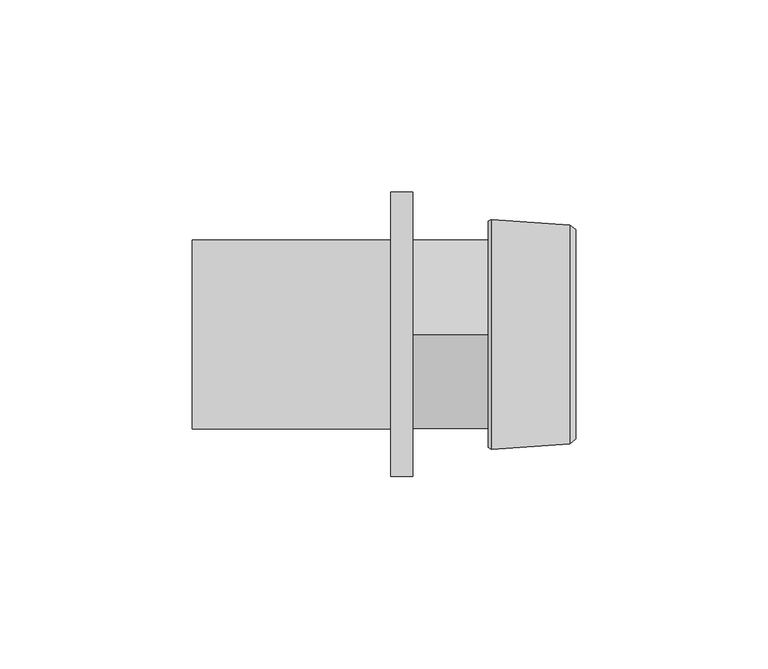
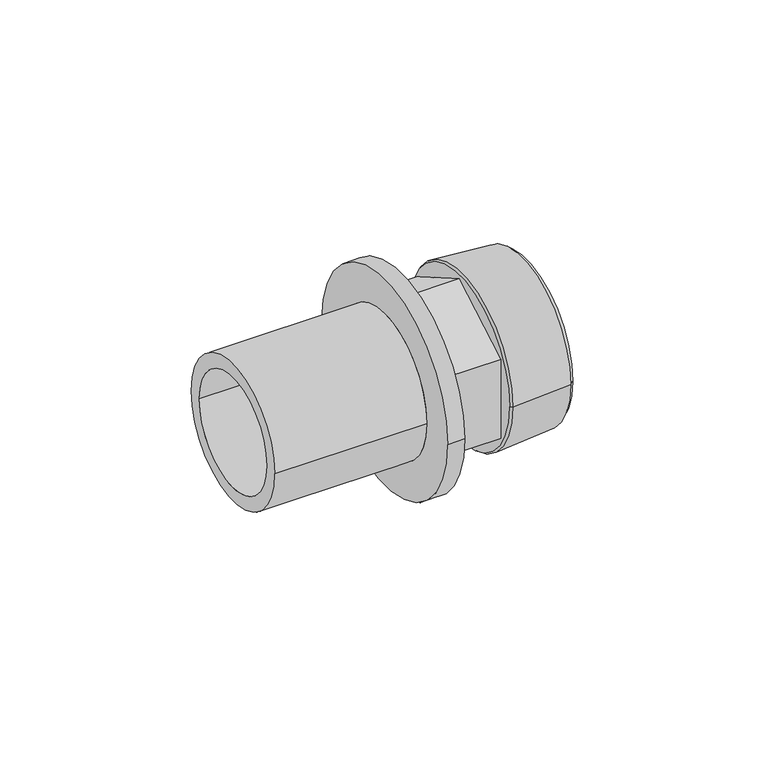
"""IFC4 building model written with IfcOpenShell, lengths in millimetres: pipe fitting geometry, RAUTITAN_Adapter_external_thread LX+G_LX : RTI A external LX+G_LX DE."""

from ifc_helpers import new_model, si_unit, frame, origin, place, context, project, spatial, polyline, circle_curve, outline, extrude, source, transform, mapped, element, save
from ifc_brep_helpers import plane_surface, cylinder_surface, revolved_surface, advanced_brep


def pipe_fitting_cd328eca(model_context):
    return source(origin(), model_context, "Body", "SolidModel", [
        advanced_brep(
        [(-5.77, 24.6, 0.0), (-5.77, -24.6, 0.0), (-57.32, -24.6, 0.0), (-57.32, 24.6, 0.0), (0.0, 37.0, 0.0), (0.0, -37.0, 0.0), (-5.77, -37.0, 0.0), (-5.77, 37.0, 0.0), (-57.32, 19.75, 0.0), (-57.32, -19.75, 0.0), (0.0, -19.75, 0.0), (0.0, 19.75, 0.0)],
        [
            (0, 1, circle_curve(frame((-5.77, 0.0, 0.0), z_axis=(-1.0, 0.0, 0.0), x_axis=(0.0, -1.0, 0.0)), 24.6)),
            (1, 2),
            (2, 3, circle_curve(frame((-57.32, 0.0, 0.0), z_axis=(1.0, 0.0, 0.0), x_axis=(0.0, -1.0, 0.0)), 24.6)),
            (3, 0),
            (4, 5, circle_curve(frame((0.0, 0.0, 0.0), z_axis=(-1.0, 0.0, 0.0), x_axis=(0.0, -1.0, 0.0)), 37.0)),
            (5, 6),
            (6, 7, circle_curve(frame((-5.77, 0.0, 0.0), z_axis=(1.0, 0.0, 0.0), x_axis=(0.0, -1.0, 0.0)), 37.0)),
            (7, 4),
            (8, 9, circle_curve(frame((-57.32, 0.0, 0.0), z_axis=(-1.0, 0.0, 0.0), x_axis=(0.0, -1.0, 0.0)), 19.75)),
            (9, 10),
            (10, 11, circle_curve(frame((0.0, 0.0, 0.0), z_axis=(1.0, 0.0, 0.0), x_axis=(0.0, -1.0, 0.0)), 19.75)),
            (11, 8),
            (2, 3, circle_curve(frame((-57.32, 0.0, 0.0), z_axis=(-1.0, 0.0, 0.0), x_axis=(0.0, 1.0, 0.0)), 24.6)),
            (8, 9, circle_curve(frame((-57.32, 0.0, 0.0), z_axis=(1.0, 0.0, 0.0), x_axis=(0.0, 1.0, 0.0)), 19.75)),
            (1, 0, circle_curve(frame((-5.77, 0.0, 0.0), z_axis=(-1.0, 0.0, 0.0), x_axis=(0.0, 1.0, 0.0)), 24.6)),
            (6, 7, circle_curve(frame((-5.77, 0.0, 0.0), z_axis=(-1.0, 0.0, 0.0), x_axis=(0.0, 1.0, 0.0)), 37.0)),
            (5, 4, circle_curve(frame((0.0, 0.0, 0.0), z_axis=(-1.0, 0.0, 0.0), x_axis=(0.0, 1.0, 0.0)), 37.0)),
            (10, 11, circle_curve(frame((0.0, 0.0, 0.0), z_axis=(-1.0, 0.0, 0.0), x_axis=(0.0, 1.0, 0.0)), 19.75)),
        ],
        [
            cylinder_surface(frame((0.0, 0.0, 0.0), z_axis=(1.0, 0.0, 0.0), x_axis=(0.0, -1.0, 0.0)), 24.6),
            cylinder_surface(frame((0.0, 0.0, 0.0), z_axis=(1.0, 0.0, 0.0), x_axis=(0.0, -1.0, 0.0)), 37.0),
            revolved_surface(polyline([(0.0, -19.75, 0.0), (-57.32, -19.75, 0.0)]), (0.0, 0.0, 0.0), (1.0, 0.0, 0.0)),
            plane_surface(frame((-57.32, 0.0, 0.0), z_axis=(-1.0, 0.0, 0.0), x_axis=(0.0, 1.0, 0.0))),
            cylinder_surface(frame((0.0, 0.0, 0.0), z_axis=(1.0, 0.0, 0.0), x_axis=(0.0, 1.0, 0.0)), 24.6),
            plane_surface(frame((-5.77, 0.0, 0.0), z_axis=(-1.0, 0.0, 0.0), x_axis=(0.0, 1.0, 0.0))),
            cylinder_surface(frame((0.0, 0.0, 0.0), z_axis=(1.0, 0.0, 0.0), x_axis=(0.0, 1.0, 0.0)), 37.0),
            plane_surface(frame((0.0, 0.0, 0.0), z_axis=(1.0, 0.0, 0.0), x_axis=(0.0, 1.0, 0.0))),
            revolved_surface(polyline([(0.0, 19.75, 0.0), (-57.32, 19.75, 0.0)]), (0.0, 0.0, 0.0), (1.0, 0.0, 0.0)),
        ],
        [
            (0, [[1, 2, 3, 4]]),
            (1, [[5, 6, 7, 8]]),
            (2, [[9, 10, 11, 12]]),
            (3, [[13, -3], [14, -9]]),
            (4, [[15, -4, -13, -2]]),
            (5, [[16, -7], [-15, -1]]),
            (6, [[17, -8, -16, -6]]),
            (7, [[-17, -5], [18, -11]]),
            (8, [[-14, -12, -18, -10]]),
        ],
    ),
        advanced_brep(
        [(20.7832803, 24.75, 0.0), (20.7832803, -24.75, 0.0), (42.38, -24.75, 0.0), (42.38, 24.75, 0.0), (19.68, 23.6467197, 0.0), (19.68, -23.6467197, 0.0), (20.4206902, 29.93, 0.0), (20.4206902, -29.93, 0.0), (19.68, -29.415, 0.0), (19.68, 29.415, 0.0), (40.8800007, 28.485, 0.0), (40.8800007, -28.485, 0.0), (42.38, 27.245, 0.0), (42.38, -27.245, 0.0)],
        [
            (0, 1, circle_curve(frame((20.7832803, 0.0, 0.0), z_axis=(-1.0, 0.0, 0.0), x_axis=(0.0, -1.0, 0.0)), 24.75)),
            (1, 2),
            (2, 3, circle_curve(frame((42.38, 0.0, 0.0), z_axis=(1.0, 0.0, 0.0), x_axis=(0.0, -1.0, 0.0)), 24.75)),
            (3, 0),
            (4, 5, circle_curve(frame((19.68, 0.0, 0.0), z_axis=(-1.0, 0.0, 0.0), x_axis=(0.0, -1.0, 0.0)), 23.6467197)),
            (5, 1),
            (0, 4),
            (6, 7, circle_curve(frame((20.4206902, 0.0, 0.0), z_axis=(-1.0, 0.0, 0.0), x_axis=(0.0, -1.0, 0.0)), 29.93)),
            (7, 8),
            (8, 9, circle_curve(frame((19.68, 0.0, 0.0), z_axis=(1.0, 0.0, 0.0), x_axis=(0.0, -1.0, 0.0)), 29.415)),
            (9, 6),
            (10, 11, circle_curve(frame((40.8800007, 0.0, 0.0), z_axis=(-1.0, 0.0, 0.0), x_axis=(0.0, -1.0, 0.0)), 28.485)),
            (11, 7),
            (6, 10),
            (12, 13, circle_curve(frame((42.38, 0.0, 0.0), z_axis=(-1.0, 0.0, 0.0), x_axis=(0.0, -1.0, 0.0)), 27.245)),
            (13, 11),
            (10, 12),
            (1, 0, circle_curve(frame((20.7832803, 0.0, 0.0), z_axis=(-1.0, 0.0, 0.0), x_axis=(0.0, 1.0, 0.0)), 24.75)),
            (3, 2, circle_curve(frame((42.38, 0.0, 0.0), z_axis=(1.0, 0.0, 0.0), x_axis=(0.0, 1.0, 0.0)), 24.75)),
            (5, 4, circle_curve(frame((19.68, 0.0, 0.0), z_axis=(-1.0, 0.0, 0.0), x_axis=(0.0, 1.0, 0.0)), 23.6467197)),
            (8, 9, circle_curve(frame((19.68, 0.0, 0.0), z_axis=(-1.0, 0.0, 0.0), x_axis=(0.0, 1.0, 0.0)), 29.415)),
            (7, 6, circle_curve(frame((20.4206902, 0.0, 0.0), z_axis=(-1.0, 0.0, 0.0), x_axis=(0.0, 1.0, 0.0)), 29.93)),
            (11, 10, circle_curve(frame((40.8800007, 0.0, 0.0), z_axis=(-1.0, 0.0, 0.0), x_axis=(0.0, 1.0, 0.0)), 28.485)),
            (13, 12, circle_curve(frame((42.38, 0.0, 0.0), z_axis=(-1.0, 0.0, 0.0), x_axis=(0.0, 1.0, 0.0)), 27.245)),
        ],
        [
            revolved_surface(polyline([(42.38, -24.75, 0.0), (20.7832803, -24.75, 0.0)]), (0.0, 0.0, 0.0), (1.0, 0.0, 0.0)),
            revolved_surface(polyline([(20.7832803, -24.75, 0.0), (19.68, -23.6467197, 0.0)]), (0.0, 0.0, 0.0), (1.0, 0.0, 0.0)),
            revolved_surface(polyline([(19.68, -29.415, 0.0), (20.4206902, -29.93, 0.0)]), (0.0, 0.0, 0.0), (1.0, 0.0, 0.0)),
            revolved_surface(polyline([(20.4206902, -29.93, 0.0), (40.8800007, -28.485, 0.0)]), (0.0, 0.0, 0.0), (1.0, 0.0, 0.0)),
            revolved_surface(polyline([(40.8800007, -28.485, 0.0), (42.38, -27.245, 0.0)]), (0.0, 0.0, 0.0), (1.0, 0.0, 0.0)),
            revolved_surface(polyline([(42.38, 24.75, 0.0), (20.7832803, 24.75, 0.0)]), (0.0, 0.0, 0.0), (1.0, 0.0, 0.0)),
            revolved_surface(polyline([(20.7832803, 24.75, 0.0), (19.68, 23.6467197, 0.0)]), (0.0, 0.0, 0.0), (1.0, 0.0, 0.0)),
            plane_surface(frame((19.68, 0.0, 0.0), z_axis=(-1.0, 0.0, 0.0), x_axis=(0.0, 1.0, 0.0))),
            revolved_surface(polyline([(19.68, 29.415, 0.0), (20.4206902, 29.93, 0.0)]), (0.0, 0.0, 0.0), (1.0, 0.0, 0.0)),
            revolved_surface(polyline([(20.4206902, 29.93, 0.0), (40.8800007, 28.485, 0.0)]), (0.0, 0.0, 0.0), (1.0, 0.0, 0.0)),
            revolved_surface(polyline([(40.8800007, 28.485, 0.0), (42.38, 27.245, 0.0)]), (0.0, 0.0, 0.0), (1.0, 0.0, 0.0)),
            plane_surface(frame((42.38, 0.0, 0.0), z_axis=(1.0, 0.0, 0.0), x_axis=(0.0, 1.0, 0.0))),
        ],
        [
            (0, [[1, 2, 3, 4]]),
            (1, [[5, 6, -1, 7]]),
            (2, [[8, 9, 10, 11]]),
            (3, [[12, 13, -8, 14]]),
            (4, [[15, 16, -12, 17]]),
            (5, [[18, -4, 19, -2]]),
            (6, [[20, -7, -18, -6]]),
            (7, [[21, -10], [-20, -5]]),
            (8, [[22, -11, -21, -9]]),
            (9, [[23, -14, -22, -13]]),
            (10, [[24, -17, -23, -16]]),
            (11, [[-24, -15], [-19, -3]]),
        ],
    ),
        extrude(outline(polyline([(-24.5, 14.1450816), (0.0, 28.2901632), (24.5, 14.1450816), (24.5, -14.1450816), (0.0, -28.2901632), (-24.5, -14.1450816), (-24.5, 14.1450816)])), frame((0.0, 0.0, 0.0), z_axis=(1.0, 0.0, 0.0), x_axis=(0.0, 1.0, 0.0)), (0.0, 0.0, 1.0), 19.68),
    ])


if __name__ == "__main__":
    model = new_model("IFC4")
    model_context = context("Model", 3, world=origin())
    ifc_project = project(units=[si_unit("LENGTHUNIT", "METRE", prefix="MILLI")], contexts=[model_context])
    site = spatial("IfcSite", under=ifc_project)
    building = spatial("IfcBuilding", under=site)
    placement = place(None, origin())
    pipe_fitting_shape = pipe_fitting_cd328eca(model_context)
    element("IfcPipeFitting", 1, ObjectType="RAUTITAN_Adapter_external_thread LX+G_LX : RTI A external LX+G_LX DE", at=placement, inside=building, context=model_context, shape_type="MappedRepresentation", body=[
        mapped(pipe_fitting_shape, transform((0.0, 0.0, 0.0), x_axis=(1.0, 0.0, 0.0), y_axis=(0.0, 1.0, 0.0), z_axis=(0.0, 0.0, 1.0))),
    ])
    save(model, "model.ifc")
